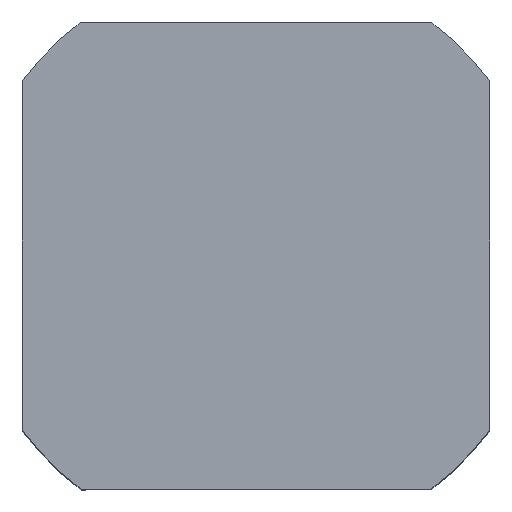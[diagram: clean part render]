
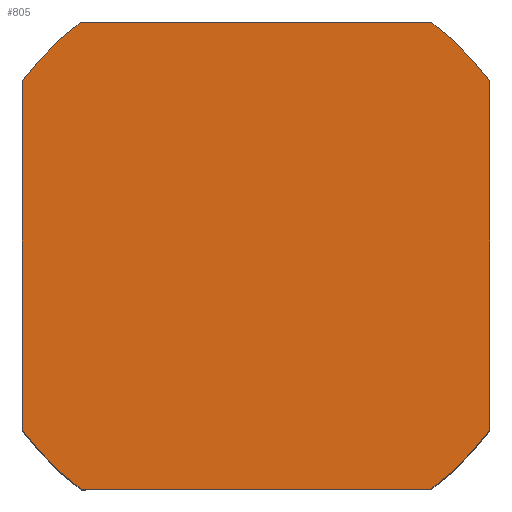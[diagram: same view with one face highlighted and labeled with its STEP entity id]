
A CAD part, top view. The second image highlights one B-rep face of the part: STEP entity #805.
In plain terms, the highlighted planar face has unit normal (0, 0, 1).
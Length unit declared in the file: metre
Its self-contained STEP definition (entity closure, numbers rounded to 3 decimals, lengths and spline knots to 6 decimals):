
#70=PLANE('',#1077);
#112=LINE('',#1515,#164);
#115=LINE('',#1523,#167);
#118=LINE('',#1531,#170);
#121=LINE('',#1539,#173);
#164=VECTOR('',#1287,1.);
#167=VECTOR('',#1296,1.);
#170=VECTOR('',#1305,1.);
#173=VECTOR('',#1314,1.);
#361=ORIENTED_EDGE('',*,*,#457,.F.);
#362=ORIENTED_EDGE('',*,*,#455,.T.);
#363=ORIENTED_EDGE('',*,*,#453,.F.);
#364=ORIENTED_EDGE('',*,*,#451,.T.);
#365=ORIENTED_EDGE('',*,*,#465,.F.);
#366=ORIENTED_EDGE('',*,*,#463,.T.);
#367=ORIENTED_EDGE('',*,*,#461,.F.);
#368=ORIENTED_EDGE('',*,*,#459,.T.);
#451=EDGE_CURVE('',#534,#533,#112,.T.);
#453=EDGE_CURVE('',#534,#535,#582,.T.);
#455=EDGE_CURVE('',#536,#535,#115,.T.);
#457=EDGE_CURVE('',#536,#537,#583,.T.);
#459=EDGE_CURVE('',#538,#537,#118,.T.);
#461=EDGE_CURVE('',#538,#539,#584,.T.);
#463=EDGE_CURVE('',#540,#539,#121,.T.);
#465=EDGE_CURVE('',#540,#533,#585,.T.);
#533=VERTEX_POINT('',#1514);
#534=VERTEX_POINT('',#1516);
#535=VERTEX_POINT('',#1520);
#536=VERTEX_POINT('',#1524);
#537=VERTEX_POINT('',#1528);
#538=VERTEX_POINT('',#1532);
#539=VERTEX_POINT('',#1536);
#540=VERTEX_POINT('',#1540);
#582=CIRCLE('',#1067,0.0265);
#583=CIRCLE('',#1070,0.0265);
#584=CIRCLE('',#1073,0.0265);
#585=CIRCLE('',#1076,0.0265);
#657=EDGE_LOOP('',(#361,#362,#363,#364,#365,#366,#367,#368));
#733=FACE_BOUND('',#657,.T.);
#805=ADVANCED_FACE('Face appearance 4',(#733),#70,.T.);
#1067=AXIS2_PLACEMENT_3D('',#1519,#1291,#1292);
#1070=AXIS2_PLACEMENT_3D('',#1527,#1300,#1301);
#1073=AXIS2_PLACEMENT_3D('',#1535,#1309,#1310);
#1076=AXIS2_PLACEMENT_3D('',#1543,#1318,#1319);
#1077=AXIS2_PLACEMENT_3D('',#1544,#1320,#1321);
#1287=DIRECTION('',(0.,-1.,0.));
#1291=DIRECTION('',(0.,0.,-1.));
#1292=DIRECTION('',(1.,0.,0.));
#1296=DIRECTION('',(-1.,0.,0.));
#1300=DIRECTION('',(0.,0.,-1.));
#1301=DIRECTION('',(1.,0.,0.));
#1305=DIRECTION('',(0.,1.,0.));
#1309=DIRECTION('',(0.,0.,-1.));
#1310=DIRECTION('',(1.,0.,0.));
#1314=DIRECTION('',(1.,0.,0.));
#1318=DIRECTION('',(0.,0.,-1.));
#1319=DIRECTION('',(1.,0.,0.));
#1320=DIRECTION('',(0.,0.,1.));
#1321=DIRECTION('',(1.,0.,0.));
#1514=CARTESIAN_POINT('',(-0.061886,-0.05874,0.262823));
#1515=CARTESIAN_POINT('',(-0.061886,-0.026964,0.262823));
#1516=CARTESIAN_POINT('',(-0.061886,-0.026964,0.262823));
#1519=CARTESIAN_POINT('',(-0.040677,-0.042852,0.262823));
#1520=CARTESIAN_POINT('',(-0.056565,-0.021643,0.262823));
#1523=CARTESIAN_POINT('',(-0.024789,-0.021643,0.262823));
#1524=CARTESIAN_POINT('',(-0.024789,-0.021643,0.262823));
#1527=CARTESIAN_POINT('',(-0.040677,-0.042852,0.262823));
#1528=CARTESIAN_POINT('',(-0.019468,-0.026964,0.262823));
#1531=CARTESIAN_POINT('',(-0.019468,-0.05874,0.262823));
#1532=CARTESIAN_POINT('',(-0.019468,-0.05874,0.262823));
#1535=CARTESIAN_POINT('',(-0.040677,-0.042852,0.262823));
#1536=CARTESIAN_POINT('',(-0.024789,-0.064061,0.262823));
#1539=CARTESIAN_POINT('',(-0.056565,-0.064061,0.262823));
#1540=CARTESIAN_POINT('',(-0.056565,-0.064061,0.262823));
#1543=CARTESIAN_POINT('',(-0.040677,-0.042852,0.262823));
#1544=CARTESIAN_POINT('',(-0.040677,-0.042852,0.262823));
